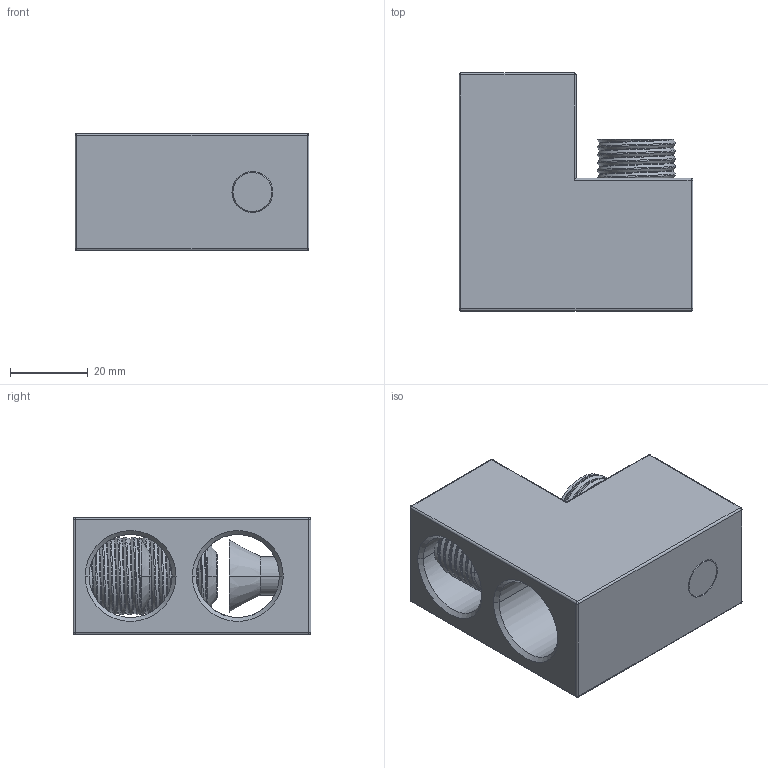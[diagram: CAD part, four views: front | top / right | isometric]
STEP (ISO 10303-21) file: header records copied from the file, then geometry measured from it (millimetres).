
FILE_DESCRIPTION((''),'2;1');
FILE_NAME('U6_CAGE_TERMINAL_ASSY_ASM','2018-06-04T',('HHI'),(''),'PRO/ENGINEER BY PARAMETRIC TECHNOLOGY CORPORATION, 2012453','PRO/ENGINEER BY PARAMETRIC TECHNOLOGY CORPORATION, 2012453','');
FILE_SCHEMA(('CONFIG_CONTROL_DESIGN'));
Length unit declared in the file: millimetre
Products named in the file (5): U6_CAGE_TERMINAL_AF1; U6_CAGE_TERMINAL_ASM; UPPER_BOLT_48D; U6_CONTACT_TERMINAL_BOLT_40D; U6_CAGE_TERMINAL_ASSY_ASM
Assembly tree (5 placements, depth 3):
  U6_CAGE_TERMINAL_ASSY_ASM
    U6_CAGE_TERMINAL_ASM
      U6_CAGE_TERMINAL_AF1
    UPPER_BOLT_48D  x2
    U6_CONTACT_TERMINAL_BOLT_40D
Bounding box: 60 x 61 x 30 mm (x, y, z)
Volume: 59941.3 mm3; surface area: 22785.6 mm2
Topology: 4 solids, 4 shells, 190 faces, 474 edges, 282 vertices
Faces by surface type: cylinder 87, plane 35, bspline 30, cone 16, torus 12, sphere 10
Entity records: 7782 total; most frequent: CARTESIAN_POINT 4814, ORIENTED_EDGE 630, DIRECTION 543, EDGE_CURVE 315, AXIS2_PLACEMENT_3D 209, VERTEX_POINT 192, EDGE_LOOP 137, FACE_OUTER_BOUND 128
